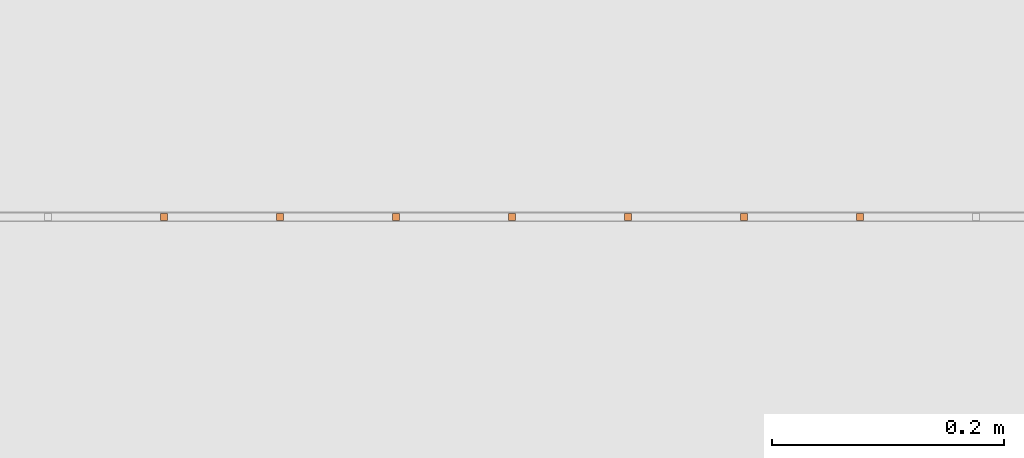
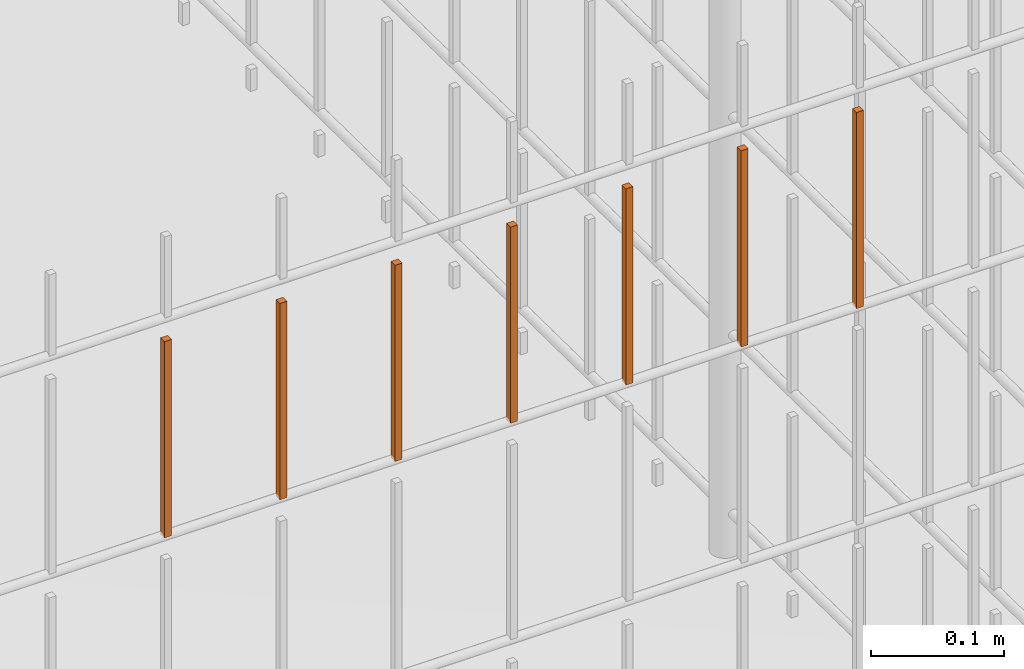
# One storey, part 248 of 1809: 7 proxies, 1 element without a shape of its own.
"""IFC2X3 building model written with IfcOpenShell, lengths in millimetres."""

from ifc_helpers import new_model, entity, si_unit, converted_unit, derived_unit, money_unit, direction, frame, origin_with_axes, place, context, subcontext, project, spatial, faceted_brep, source, transform, mapped, material, type_object, element, aggregate, save


model = new_model("IFC2X3")

# Units and contexts
model_context = context("Model", 3, precision=0.01, world=origin_with_axes(), true_north=direction((0.0, 1.0)))
body_context = subcontext(model_context, "Body", "Model", "MODEL_VIEW")
ifc_project = project(units=[si_unit("LENGTHUNIT", "METRE", prefix="MILLI"), si_unit("AREAUNIT", "SQUARE_METRE"), si_unit("VOLUMEUNIT", "CUBIC_METRE"), converted_unit("PLANEANGLEUNIT", "DEGREE", entity("IfcPlaneAngleMeasure", 0.0174532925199), si_unit("PLANEANGLEUNIT", "RADIAN"), dimensions=[0, 0, 0, 0, 0, 0, 0]), si_unit("SOLIDANGLEUNIT", "STERADIAN"), money_unit("EUR"), converted_unit("TIMEUNIT", "Year", entity("IfcTimeMeasure", 31556926.0), si_unit("TIMEUNIT", "SECOND"), dimensions=[0, 0, 1, 0, 0, 0, 0]), si_unit("MASSUNIT", "GRAM", prefix="KILO"), si_unit("THERMODYNAMICTEMPERATUREUNIT", "DEGREE_CELSIUS"), si_unit("LUMINOUSINTENSITYUNIT", "LUMEN"), si_unit("ENERGYUNIT", "JOULE", prefix="MEGA"), derived_unit("THERMALCONDUCTANCEUNIT", [(si_unit("POWERUNIT", "WATT"), 1), (si_unit("LENGTHUNIT", "METRE"), -1), (si_unit("THERMODYNAMICTEMPERATUREUNIT", "KELVIN"), -1)]), derived_unit("SPECIFICHEATCAPACITYUNIT", [(si_unit("ENERGYUNIT", "JOULE"), 1), (si_unit("MASSUNIT", "GRAM", prefix="KILO"), -1), (si_unit("THERMODYNAMICTEMPERATUREUNIT", "KELVIN"), -1)]), derived_unit("MASSDENSITYUNIT", [(si_unit("MASSUNIT", "GRAM", prefix="KILO"), 1), (si_unit("VOLUMEUNIT", "CUBIC_METRE"), -1)])], contexts=[model_context])

# Site, building, storey
site_placement = place(None, origin_with_axes())
site = spatial("IfcSite", under=ifc_project, at=site_placement, Name="Politse- ja Piirivalveameti ning Päästeameti ühishoone", CompositionType="ELEMENT")
building_placement = place(site_placement, origin_with_axes())
building = spatial("IfcBuilding", under=site, at=building_placement, Name="Politse- ja Piirivalveameti ning Päästeameti ühishoone", CompositionType="ELEMENT")
storey_placement = place(building_placement, origin_with_axes())
storey = spatial("IfcBuildingStorey", under=building, at=storey_placement, Name="Esimene korrus", CompositionType="ELEMENT", Elevation=0.0)

# Proxies
building_element_proxy_type_1 = type_object("IfcBuildingElementProxyType", Name="Railing Type", PredefinedType="NOTDEFINED")
proxy_1_placement = place(storey_placement, frame((-16775.8601056, 25156.7555964, 0.0), z_axis=(0.0, 0.0, 1.0), x_axis=(1.0, 0.0, 0.0)))
proxy_1 = element("IfcBuildingElementProxy", 1, at=proxy_1_placement, inside=storey, type_object=building_element_proxy_type_1, Name="KENNELI PIIRE")
ifc_material = material(Name="Teras - Konstruktsioon")
building_element_proxy_type_2 = type_object("IfcBuildingElementProxyType", Name="IfcBuildingElementProxy", PredefinedType="NOTDEFINED")
shared_shape = source(origin_with_axes(), body_context, "Body", "Brep", [
    faceted_brep([(3.0, 3.0, 0.0), (-3.0, 3.0, 0.0), (-3.0, 3.0, 180.000012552), (3.0, 3.0, 180.000012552), (3.0, -3.0, 0.0), (-3.0, -3.0, 0.0), (-3.0, -3.0, 180.000012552), (3.0, -3.0, 180.000012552)], [[[0, 1, 2, 3]], [[0, 4, 5, 1]], [[1, 5, 6, 2]], [[3, 2, 6, 7]], [[4, 0, 3, 7]], [[5, 4, 7, 6]]]),
])
proxy_2_placement = place(proxy_1_placement, frame((-1782.26655065, -16068.8402798, 2203.99998745), z_axis=(0.0, 0.0, 1.0), x_axis=(1.0, 0.0, 0.0)))
proxy_2 = element("IfcBuildingElementProxy", 2, at=proxy_2_placement, type_object=building_element_proxy_type_2, material=ifc_material, Name="BALUSTER - 001", context=body_context, shape_type="MappedRepresentation", body=[
    mapped(shared_shape, transform((0.0, 0.0, 0.0), x_axis=(0.0, -1.0, 0.0), y_axis=(1.0, 0.0, 0.0), z_axis=(0.0, 0.0, 1.0))),
])
proxy_3_placement = place(proxy_1_placement, frame((-1682.26655065, -16068.8402798, 2203.99998745), z_axis=(0.0, 0.0, 1.0), x_axis=(1.0, 0.0, 0.0)))
proxy_3 = element("IfcBuildingElementProxy", 3, at=proxy_3_placement, type_object=building_element_proxy_type_2, material=ifc_material, Name="BALUSTER - 001", context=body_context, shape_type="MappedRepresentation", body=[
    mapped(shared_shape, transform((0.0, 0.0, 0.0), x_axis=(0.0, -1.0, 0.0), y_axis=(1.0, 0.0, 0.0), z_axis=(0.0, 0.0, 1.0))),
])
proxy_4_placement = place(proxy_1_placement, frame((-1582.26655065, -16068.8402798, 2203.99998745), z_axis=(0.0, 0.0, 1.0), x_axis=(1.0, 0.0, 0.0)))
proxy_4 = element("IfcBuildingElementProxy", 4, at=proxy_4_placement, type_object=building_element_proxy_type_2, material=ifc_material, Name="BALUSTER - 001", context=body_context, shape_type="MappedRepresentation", body=[
    mapped(shared_shape, transform((0.0, 0.0, 0.0), x_axis=(0.0, -1.0, 0.0), y_axis=(1.0, 0.0, 0.0), z_axis=(0.0, 0.0, 1.0))),
])
proxy_5_placement = place(proxy_1_placement, frame((-1482.26655065, -16068.8402798, 2203.99998745), z_axis=(0.0, 0.0, 1.0), x_axis=(1.0, 0.0, 0.0)))
proxy_5 = element("IfcBuildingElementProxy", 5, at=proxy_5_placement, type_object=building_element_proxy_type_2, material=ifc_material, Name="BALUSTER - 001", context=body_context, shape_type="MappedRepresentation", body=[
    mapped(shared_shape, transform((0.0, 0.0, 0.0), x_axis=(0.0, -1.0, 0.0), y_axis=(1.0, 0.0, 0.0), z_axis=(0.0, 0.0, 1.0))),
])
proxy_6_placement = place(proxy_1_placement, frame((-1382.26655065, -16068.8402798, 2203.99998745), z_axis=(0.0, 0.0, 1.0), x_axis=(1.0, 0.0, 0.0)))
proxy_6 = element("IfcBuildingElementProxy", 6, at=proxy_6_placement, type_object=building_element_proxy_type_2, material=ifc_material, Name="BALUSTER - 001", context=body_context, shape_type="MappedRepresentation", body=[
    mapped(shared_shape, transform((0.0, 0.0, 0.0), x_axis=(0.0, -1.0, 0.0), y_axis=(1.0, 0.0, 0.0), z_axis=(0.0, 0.0, 1.0))),
])
proxy_7_placement = place(proxy_1_placement, frame((-1282.26655065, -16068.8402798, 2203.99998745), z_axis=(0.0, 0.0, 1.0), x_axis=(1.0, 0.0, 0.0)))
proxy_7 = element("IfcBuildingElementProxy", 7, at=proxy_7_placement, type_object=building_element_proxy_type_2, material=ifc_material, Name="BALUSTER - 001", context=body_context, shape_type="MappedRepresentation", body=[
    mapped(shared_shape, transform((0.0, 0.0, 0.0), x_axis=(0.0, -1.0, 0.0), y_axis=(1.0, 0.0, 0.0), z_axis=(0.0, 0.0, 1.0))),
])
proxy_8_placement = place(proxy_1_placement, frame((-1182.26655065, -16068.8402798, 2203.99998745), z_axis=(0.0, 0.0, 1.0), x_axis=(1.0, 0.0, 0.0)))
proxy_8 = element("IfcBuildingElementProxy", 8, at=proxy_8_placement, type_object=building_element_proxy_type_2, material=ifc_material, Name="BALUSTER - 001", context=body_context, shape_type="MappedRepresentation", body=[
    mapped(shared_shape, transform((0.0, 0.0, 0.0), x_axis=(0.0, -1.0, 0.0), y_axis=(1.0, 0.0, 0.0), z_axis=(0.0, 0.0, 1.0))),
])
aggregate(proxy_1, [proxy_2, proxy_3, proxy_4, proxy_5, proxy_6, proxy_7, proxy_8])

save(model, "model.ifc")
